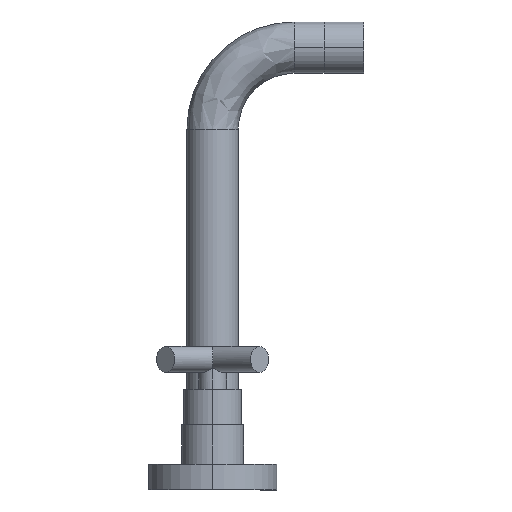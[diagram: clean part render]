
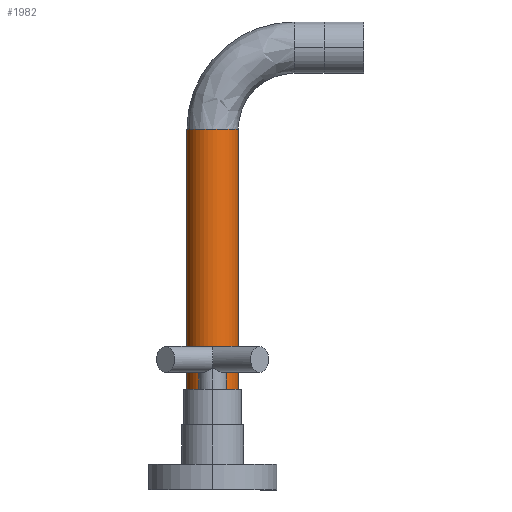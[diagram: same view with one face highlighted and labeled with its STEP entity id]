
A CAD part, left-side view. The second image highlights one B-rep face of the part: STEP entity #1982.
In plain terms, the highlighted cylindrical face has radius 12 mm (diameter 24 mm), a partial arc.
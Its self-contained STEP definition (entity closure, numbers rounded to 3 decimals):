
#1929 = VERTEX_POINT('',#1930);
#1930 = CARTESIAN_POINT('',(0.,12.,0.)
  );
#1931 = VERTEX_POINT('',#1932);
#1932 = CARTESIAN_POINT('',(0.,-12.,0.)
  );
#1939 = EDGE_CURVE('',#1931,#1929,#1940,.T.);
#1940 = CIRCLE('',#1941,12.);
#1941 = AXIS2_PLACEMENT_3D('',#1942,#1943,#1944);
#1942 = CARTESIAN_POINT('',(0.,0.,
    0.));
#1943 = DIRECTION('',(0.,0.,-1.));
#1944 = DIRECTION('',(0.,-1.,0.));
#1955 = EDGE_CURVE('',#1929,#1956,#1958,.T.);
#1956 = VERTEX_POINT('',#1957);
#1957 = CARTESIAN_POINT('',(0.,12.,168.5));
#1958 = LINE('',#1959,#1960);
#1959 = CARTESIAN_POINT('',(0.,12.,0.)
  );
#1960 = VECTOR('',#1961,1.);
#1961 = DIRECTION('',(0.,0.,1.));
#1964 = VERTEX_POINT('',#1965);
#1965 = CARTESIAN_POINT('',(0.,-12.,168.5));
#1972 = EDGE_CURVE('',#1964,#1931,#1973,.T.);
#1973 = LINE('',#1974,#1975);
#1974 = CARTESIAN_POINT('',(0.,-12.,0.)
  );
#1975 = VECTOR('',#1976,1.);
#1976 = DIRECTION('',(0.,0.,-1.));
#1982 = ADVANCED_FACE('',(#1983),#1995,.T.);
#1983 = FACE_BOUND('',#1984,.T.);
#1984 = EDGE_LOOP('',(#1985,#1986,#1987,#1994));
#1985 = ORIENTED_EDGE('',*,*,#1939,.F.);
#1986 = ORIENTED_EDGE('',*,*,#1972,.F.);
#1987 = ORIENTED_EDGE('',*,*,#1988,.T.);
#1988 = EDGE_CURVE('',#1964,#1956,#1989,.T.);
#1989 = CIRCLE('',#1990,12.);
#1990 = AXIS2_PLACEMENT_3D('',#1991,#1992,#1993);
#1991 = CARTESIAN_POINT('',(0.,0.,168.5)
  );
#1992 = DIRECTION('',(0.,0.,-1.));
#1993 = DIRECTION('',(0.,-1.,0.));
#1994 = ORIENTED_EDGE('',*,*,#1955,.F.);
#1995 = CYLINDRICAL_SURFACE('',#1996,12.);
#1996 = AXIS2_PLACEMENT_3D('',#1997,#1998,#1999);
#1997 = CARTESIAN_POINT('',(0.,0.,
    0.));
#1998 = DIRECTION('',(0.,0.,-1.));
#1999 = DIRECTION('',(0.,-1.,0.));
